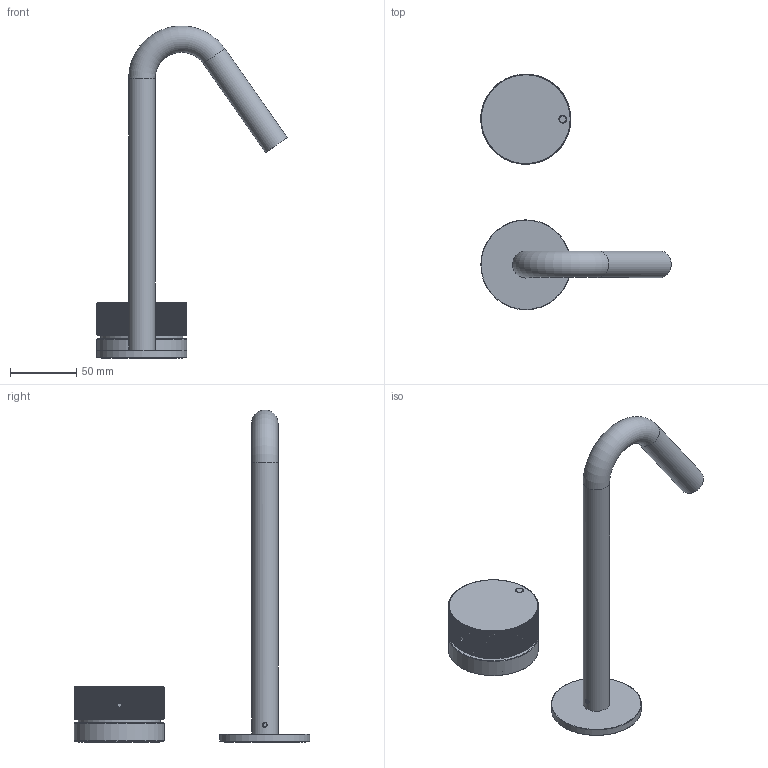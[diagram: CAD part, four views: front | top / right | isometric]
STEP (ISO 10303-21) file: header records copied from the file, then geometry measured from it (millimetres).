
FILE_DESCRIPTION(/* description */ ('Unknown'),/* implementation_level */ '2;1');
FILE_NAME(/* name */ 'RE004',/* time_stamp */ '2023-07-14T07:58:55+02:00',/* author */ ('Unknown'),/* organization */ ('Unknown'),/* preprocessor_version */ 'ST-DEVELOPER v18.102',/* originating_system */ 'Solid Edge',/* authorisation */ 'Unknown');
FILE_SCHEMA (('AUTOMOTIVE_DESIGN {1 0 10303 214 3 1 1}'));
Length unit declared in the file: millimetre
Products named in the file (16): RE004; RE004-002_oa_0; RE004-05; RE006-03; OR-63.22x1.78; G-61-56-2; RE004-001_oa_1; RE004-02; RE013-03; OR-12.42x1.78; GRP-4x3; 44.3256.450; 44.3256.450-1; 44.3256.450-2; 44.3256.450-3; 44.3256.450-4
Assembly tree (17 placements, depth 4):
  RE004
    RE004-002_oa_0
      RE004-05
      RE006-03
      OR-63.22x1.78
      G-61-56-2
    RE004-001_oa_1
      RE004-02
      RE013-03
      OR-12.42x1.78  x2
      GRP-4x3
      44.3256.450
        44.3256.450-1
        44.3256.450-2
        44.3256.450-3
        44.3256.450-4
      G-61-56-2
Bounding box: 143.94 x 178 x 250.92 mm (x, y, z)
Volume: 97112.7 mm3; surface area: 89505.8 mm2
Topology: 14 solids, 14 shells, 1196 faces, 2691 edges, 1539 vertices
Faces by surface type: plane 514, cone 405, cylinder 234, torus 23, bspline 18, sphere 2
Full cylindrical faces by diameter (mm): 3.242 x2, 5 x2, 6 x1, 11.027 x2, 12 x1, 12.159 x1, 12.196 x1, 12.45 x1, 13.464 x1, 14.577 x1, 15 x2, 15.033 x1, 15.218 x1, 15.229 x1, 15.417 x2, 16 x1, 16.2 x1, 16.3 x1, 16.5 x2, 16.75 x1, 16.917 x1, 18 x1, 20 x2, 21 x1, 56 x2, 58 x1, 61 x2, 62 x1, 62.7 x1, 65 x1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
Entity records: 41099 total; most frequent: CARTESIAN_POINT 8115, DIRECTION 5097, ORIENTED_EDGE 5086, EDGE_CURVE 2543, AXIS2_PLACEMENT_3D 2144, VERTEX_POINT 1503, FACE_BOUND 1332, EDGE_LOOP 1326
